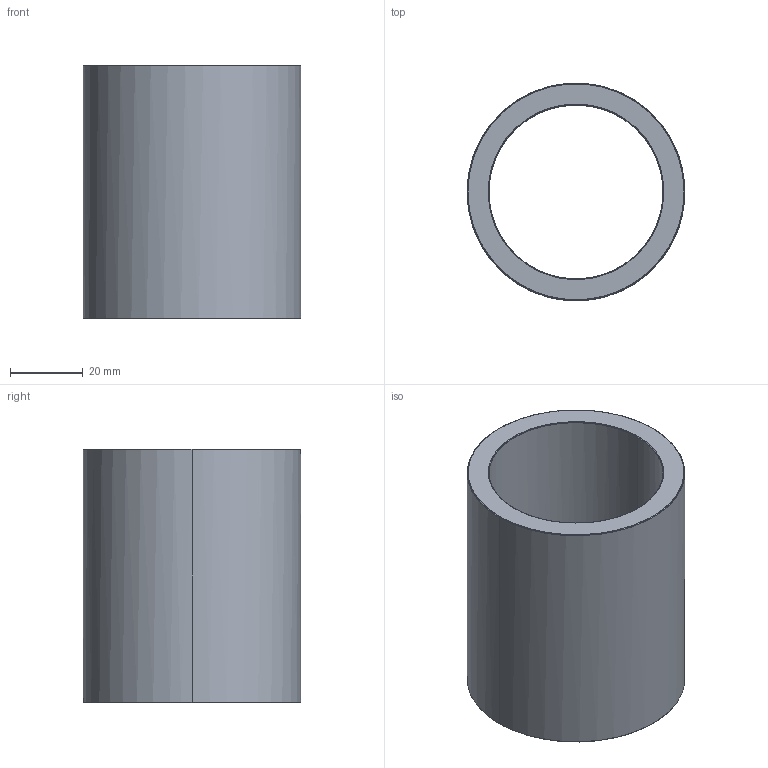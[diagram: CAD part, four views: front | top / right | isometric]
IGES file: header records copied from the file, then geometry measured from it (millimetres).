
Start section: Write IGES format                                    datakit 2008 (c)
Global section: file name: Unknown; native system: DATAKIT Converter; preprocessor: Unknown; author: Unknown; organization: Unknown; date: 950613.180003; units: millimetre
Bounding box: 60 x 59.88 x 70 mm (x, y, z)
Surface area: 25706.7 mm2 (no closed solid volume)
Topology: 0 solids, 0 shells, 14 faces, 56 edges, 56 vertices
Faces by surface type: revolution 12, bspline 2
